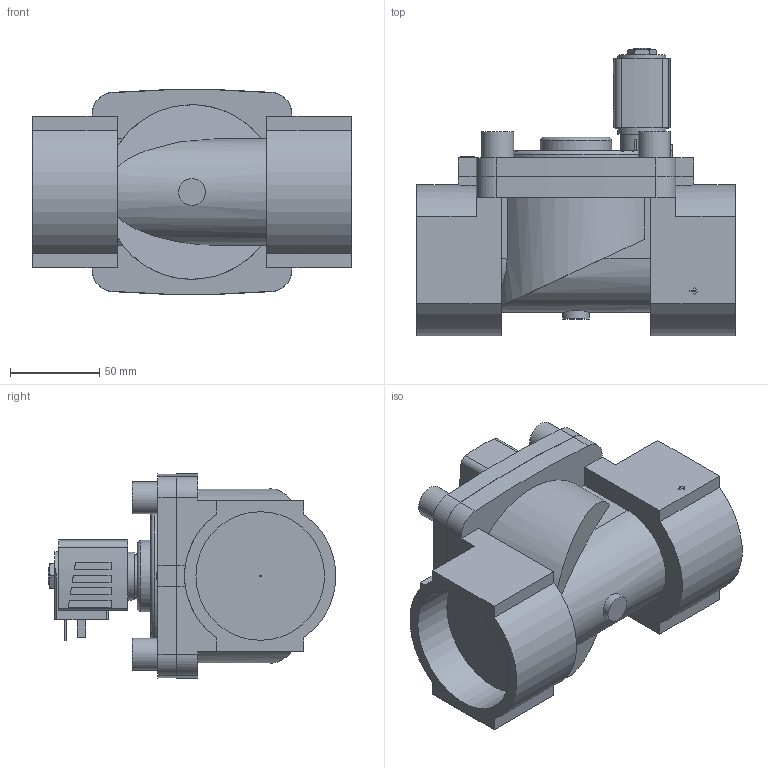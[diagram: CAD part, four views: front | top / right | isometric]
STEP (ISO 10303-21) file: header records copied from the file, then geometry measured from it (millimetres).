
FILE_DESCRIPTION(/* description */ ('STEP AP214'),/* implementation_level */ '2;1');
FILE_NAME(/* name */ '6281-314953-2_2-Way_Solenoid_Valve__Servo-assisted__General_Purpose',/* time_stamp */ '2024-09-09T10:32:56+02:00',/* author */ ('License CC BY-ND 4.0'),/* organization */ ('CADENAS'),/* preprocessor_version */ 'ST-DEVELOPER v19.3',/* originating_system */ 'PARTsolutions',/* authorisation */ ' ');
FILE_SCHEMA (('AUTOMOTIVE_DESIGN {1 0 10303 214 3 1 1}'));
Length unit declared in the file: millimetre
Products named in the file (4): 6281-314953-2/2-Way Solenoid Valve, Servo-assisted, General Purpose; 5281ev501MS2/2-Wege-Magnetventil mit Servomembran-Deckel 115 ; 5281ge-50 G2 1/2 MS; AC10ex-5NA38-Plan-Coil
Assembly tree (3 placements, depth 2):
  6281-314953-2/2-Way Solenoid Valve, Servo-assisted, General Purpose
    5281ev501MS2/2-Wege-Magnetventil mit Servomembran-Deckel 115 
    5281ge-50 G2 1/2 MS
    AC10ex-5NA38-Plan-Coil
Bounding box: 179 x 161.34 x 114.92 mm (x, y, z)
Volume: 1137231 mm3; surface area: 139797.2 mm2
Topology: 3 solids, 3 shells, 258 faces, 668 edges, 444 vertices
Faces by surface type: plane 185, cylinder 62, cone 9, torus 2
Full cylindrical faces by diameter (mm): 1 x1, 2.013 x1, 6.8 x1, 9.74 x1, 15 x1, 18 x4, 27 x1, 40 x1, 72.226 x2
Entity records: 9181 total; most frequent: CARTESIAN_POINT 1450, DIRECTION 1308, ORIENTED_EDGE 1284, EDGE_CURVE 642, LINE 448, VECTOR 448, VERTEX_POINT 435, AXIS2_PLACEMENT_3D 430
